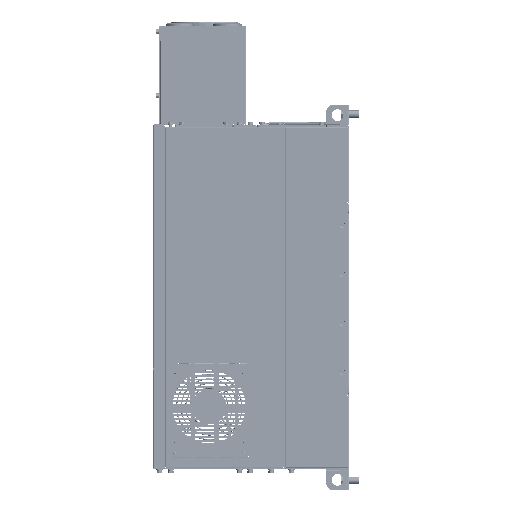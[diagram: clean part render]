
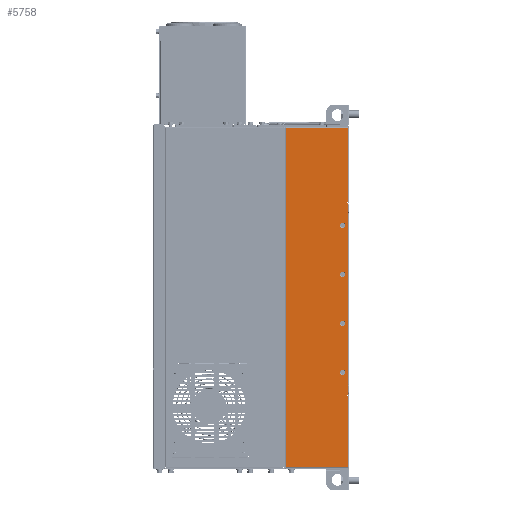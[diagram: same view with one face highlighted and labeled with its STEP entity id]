
A CAD part, left-side view. The second image highlights one B-rep face of the part: STEP entity #5758.
In plain terms, the highlighted planar face has unit normal (-1, 0, 0).
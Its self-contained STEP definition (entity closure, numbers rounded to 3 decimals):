
#449=DIRECTION('',(0.,0.,1.));
#450=VECTOR('',#449,108.7);
#451=CARTESIAN_POINT('',(-185.,2.1,-522.3));
#452=LINE('',#451,#450);
#467=DIRECTION('',(0.,1.,0.));
#468=VECTOR('',#467,1.1);
#469=CARTESIAN_POINT('',(-185.,2.1,-413.6));
#470=LINE('',#469,#468);
#475=DIRECTION('',(0.,0.,-1.));
#476=VECTOR('',#475,1.6);
#477=CARTESIAN_POINT('',(-185.,3.2,-116.4));
#478=LINE('',#477,#476);
#479=DIRECTION('',(0.,1.,0.));
#480=VECTOR('',#479,1.1);
#481=CARTESIAN_POINT('',(-185.,2.1,-116.4));
#482=LINE('',#481,#480);
#483=CARTESIAN_POINT('',(-185.,10.,-377.5));
#484=DIRECTION('',(-1.,0.,0.));
#485=DIRECTION('',(0.,-1.,0.));
#486=AXIS2_PLACEMENT_3D('',#483,#484,#485);
#488=CARTESIAN_POINT('',(-185.,10.,-377.5));
#489=DIRECTION('',(-1.,0.,0.));
#490=DIRECTION('',(0.,1.,0.));
#491=AXIS2_PLACEMENT_3D('',#488,#489,#490);
#493=CARTESIAN_POINT('',(-185.,10.,-302.5));
#494=DIRECTION('',(-1.,0.,0.));
#495=DIRECTION('',(0.,-1.,0.));
#496=AXIS2_PLACEMENT_3D('',#493,#494,#495);
#498=CARTESIAN_POINT('',(-185.,10.,-302.5));
#499=DIRECTION('',(-1.,0.,0.));
#500=DIRECTION('',(0.,1.,0.));
#501=AXIS2_PLACEMENT_3D('',#498,#499,#500);
#503=CARTESIAN_POINT('',(-185.,10.,-227.5));
#504=DIRECTION('',(-1.,0.,0.));
#505=DIRECTION('',(0.,-1.,0.));
#506=AXIS2_PLACEMENT_3D('',#503,#504,#505);
#508=CARTESIAN_POINT('',(-185.,10.,-227.5));
#509=DIRECTION('',(-1.,0.,0.));
#510=DIRECTION('',(0.,1.,0.));
#511=AXIS2_PLACEMENT_3D('',#508,#509,#510);
#513=CARTESIAN_POINT('',(-185.,10.,-152.5));
#514=DIRECTION('',(-1.,0.,0.));
#515=DIRECTION('',(0.,-1.,0.));
#516=AXIS2_PLACEMENT_3D('',#513,#514,#515);
#518=CARTESIAN_POINT('',(-185.,10.,-152.5));
#519=DIRECTION('',(-1.,0.,0.));
#520=DIRECTION('',(0.,1.,0.));
#521=AXIS2_PLACEMENT_3D('',#518,#519,#520);
#549=DIRECTION('',(0.,0.,1.));
#550=VECTOR('',#549,112.7);
#551=CARTESIAN_POINT('',(-185.,2.1,-116.4));
#552=LINE('',#551,#550);
#581=DIRECTION('',(0.,1.,0.));
#582=VECTOR('',#581,94.9);
#583=CARTESIAN_POINT('',(-185.,2.1,-3.7));
#584=LINE('',#583,#582);
#623=DIRECTION('',(0.,0.,-1.));
#624=VECTOR('',#623,518.6);
#625=CARTESIAN_POINT('',(-185.,97.,-3.7));
#626=LINE('',#625,#624);
#661=DIRECTION('',(0.,-1.,0.));
#662=VECTOR('',#661,94.9);
#663=CARTESIAN_POINT('',(-185.,97.,-522.3));
#664=LINE('',#663,#662);
#843=DIRECTION('',(0.,0.,1.));
#844=VECTOR('',#843,1.6);
#845=CARTESIAN_POINT('',(-185.,3.2,-413.6));
#846=LINE('',#845,#844);
#851=DIRECTION('',(0.,-1.,0.));
#852=VECTOR('',#851,1.6);
#853=CARTESIAN_POINT('',(-185.,3.2,-412.));
#854=LINE('',#853,#852);
#859=DIRECTION('',(0.,0.,1.));
#860=VECTOR('',#859,294.);
#861=CARTESIAN_POINT('',(-185.,1.6,-412.));
#862=LINE('',#861,#860);
#867=DIRECTION('',(0.,1.,0.));
#868=VECTOR('',#867,1.6);
#869=CARTESIAN_POINT('',(-185.,1.6,-118.));
#870=LINE('',#869,#868);
#4439=CARTESIAN_POINT('',(-185.,2.1,-413.6));
#4440=VERTEX_POINT('',#4439);
#4441=CARTESIAN_POINT('',(-185.,2.1,-522.3));
#4442=VERTEX_POINT('',#4441);
#4447=CARTESIAN_POINT('',(-185.,3.2,-413.6));
#4448=VERTEX_POINT('',#4447);
#4451=CARTESIAN_POINT('',(-185.,3.2,-116.4));
#4452=CARTESIAN_POINT('',(-185.,3.2,-118.));
#4453=VERTEX_POINT('',#4451);
#4454=VERTEX_POINT('',#4452);
#4455=CARTESIAN_POINT('',(-185.,1.6,-118.));
#4456=VERTEX_POINT('',#4455);
#4457=CARTESIAN_POINT('',(-185.,1.6,-412.));
#4458=VERTEX_POINT('',#4457);
#4459=CARTESIAN_POINT('',(-185.,3.2,-412.));
#4460=VERTEX_POINT('',#4459);
#4461=CARTESIAN_POINT('',(-185.,97.,-522.3));
#4462=VERTEX_POINT('',#4461);
#4463=CARTESIAN_POINT('',(-185.,97.,-3.7));
#4464=VERTEX_POINT('',#4463);
#4465=CARTESIAN_POINT('',(-185.,2.1,-3.7));
#4466=VERTEX_POINT('',#4465);
#4467=CARTESIAN_POINT('',(-185.,2.1,-116.4));
#4468=VERTEX_POINT('',#4467);
#4469=CARTESIAN_POINT('',(-185.,5.95,-377.5));
#4470=CARTESIAN_POINT('',(-185.,14.05,-377.5));
#4471=VERTEX_POINT('',#4469);
#4472=VERTEX_POINT('',#4470);
#4473=CARTESIAN_POINT('',(-185.,5.95,-302.5));
#4474=CARTESIAN_POINT('',(-185.,14.05,-302.5));
#4475=VERTEX_POINT('',#4473);
#4476=VERTEX_POINT('',#4474);
#4477=CARTESIAN_POINT('',(-185.,5.95,-227.5));
#4478=CARTESIAN_POINT('',(-185.,14.05,-227.5));
#4479=VERTEX_POINT('',#4477);
#4480=VERTEX_POINT('',#4478);
#4481=CARTESIAN_POINT('',(-185.,5.95,-152.5));
#4482=CARTESIAN_POINT('',(-185.,14.05,-152.5));
#4483=VERTEX_POINT('',#4481);
#4484=VERTEX_POINT('',#4482);
#5705=CARTESIAN_POINT('',(-185.,0.,-1.6));
#5706=DIRECTION('',(-1.,0.,0.));
#5707=DIRECTION('',(0.,0.,1.));
#5708=AXIS2_PLACEMENT_3D('',#5705,#5706,#5707);
#5709=PLANE('',#5708);
#5711=ORIENTED_EDGE('',*,*,#5710,.T.);
#5713=ORIENTED_EDGE('',*,*,#5712,.F.);
#5715=ORIENTED_EDGE('',*,*,#5714,.F.);
#5717=ORIENTED_EDGE('',*,*,#5716,.F.);
#5719=ORIENTED_EDGE('',*,*,#5718,.F.);
#5720=ORIENTED_EDGE('',*,*,#5695,.F.);
#5721=ORIENTED_EDGE('',*,*,#5670,.F.);
#5723=ORIENTED_EDGE('',*,*,#5722,.F.);
#5725=ORIENTED_EDGE('',*,*,#5724,.F.);
#5727=ORIENTED_EDGE('',*,*,#5726,.F.);
#5729=ORIENTED_EDGE('',*,*,#5728,.F.);
#5731=ORIENTED_EDGE('',*,*,#5730,.T.);
#5732=EDGE_LOOP('',(#5711,#5713,#5715,#5717,#5719,#5720,#5721,#5723,#5725,#5727,
#5729,#5731));
#5733=FACE_OUTER_BOUND('',#5732,.F.);
#5735=ORIENTED_EDGE('',*,*,#5734,.T.);
#5737=ORIENTED_EDGE('',*,*,#5736,.T.);
#5738=EDGE_LOOP('',(#5735,#5737));
#5739=FACE_BOUND('',#5738,.F.);
#5741=ORIENTED_EDGE('',*,*,#5740,.T.);
#5743=ORIENTED_EDGE('',*,*,#5742,.T.);
#5744=EDGE_LOOP('',(#5741,#5743));
#5745=FACE_BOUND('',#5744,.F.);
#5747=ORIENTED_EDGE('',*,*,#5746,.T.);
#5749=ORIENTED_EDGE('',*,*,#5748,.T.);
#5750=EDGE_LOOP('',(#5747,#5749));
#5751=FACE_BOUND('',#5750,.F.);
#5753=ORIENTED_EDGE('',*,*,#5752,.T.);
#5755=ORIENTED_EDGE('',*,*,#5754,.T.);
#5756=EDGE_LOOP('',(#5753,#5755));
#5757=FACE_BOUND('',#5756,.F.);
#487=CIRCLE('',#486,4.05);
#492=CIRCLE('',#491,4.05);
#497=CIRCLE('',#496,4.05);
#502=CIRCLE('',#501,4.05);
#507=CIRCLE('',#506,4.05);
#512=CIRCLE('',#511,4.05);
#517=CIRCLE('',#516,4.05);
#522=CIRCLE('',#521,4.05);
#5670=EDGE_CURVE('',#4442,#4440,#452,.T.);
#5695=EDGE_CURVE('',#4440,#4448,#470,.T.);
#5710=EDGE_CURVE('',#4453,#4454,#478,.T.);
#5712=EDGE_CURVE('',#4456,#4454,#870,.T.);
#5714=EDGE_CURVE('',#4458,#4456,#862,.T.);
#5716=EDGE_CURVE('',#4460,#4458,#854,.T.);
#5718=EDGE_CURVE('',#4448,#4460,#846,.T.);
#5722=EDGE_CURVE('',#4462,#4442,#664,.T.);
#5724=EDGE_CURVE('',#4464,#4462,#626,.T.);
#5726=EDGE_CURVE('',#4466,#4464,#584,.T.);
#5728=EDGE_CURVE('',#4468,#4466,#552,.T.);
#5730=EDGE_CURVE('',#4468,#4453,#482,.T.);
#5734=EDGE_CURVE('',#4471,#4472,#487,.T.);
#5736=EDGE_CURVE('',#4472,#4471,#492,.T.);
#5740=EDGE_CURVE('',#4475,#4476,#497,.T.);
#5742=EDGE_CURVE('',#4476,#4475,#502,.T.);
#5746=EDGE_CURVE('',#4479,#4480,#507,.T.);
#5748=EDGE_CURVE('',#4480,#4479,#512,.T.);
#5752=EDGE_CURVE('',#4483,#4484,#517,.T.);
#5754=EDGE_CURVE('',#4484,#4483,#522,.T.);
#5758=ADVANCED_FACE('',(#5733,#5739,#5745,#5751,#5757),#5709,.T.);
